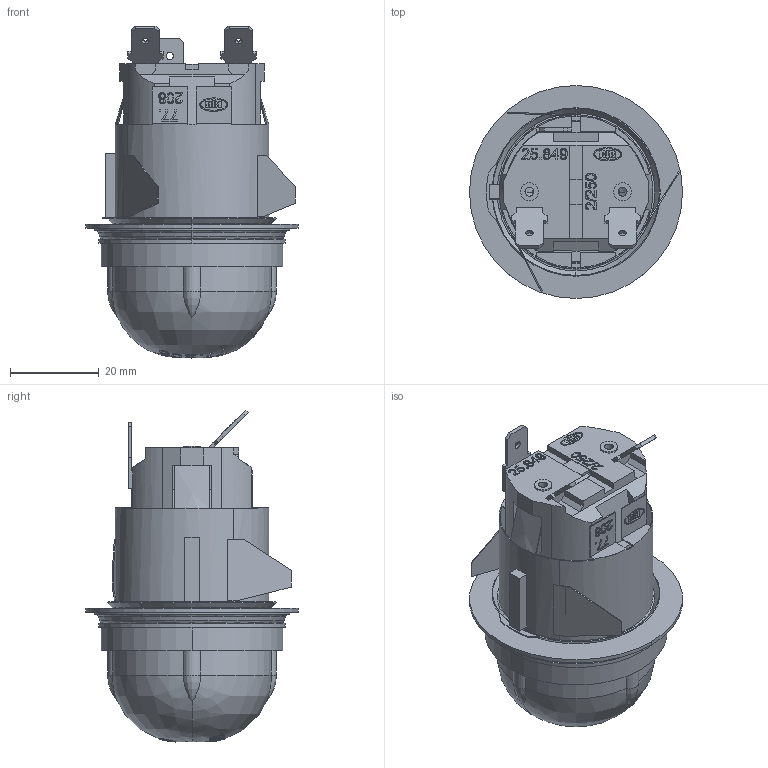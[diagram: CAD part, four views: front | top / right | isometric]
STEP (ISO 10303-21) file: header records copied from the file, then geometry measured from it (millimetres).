
FILE_DESCRIPTION(('CAx-IF Rec.Pracs.---Model Styling and Organization---1.2---2011-12-15','CAx-IF Rec.Pracs.---Geometric and Assembly Validation Properties---4.1---2014-06-16','CAx-IF Rec.Pracs.---PMI Polyline Presentation---2.0---2013-05-24'),'2;1');
FILE_NAME('011YV20Y04.stp','2021-07-26T07:46:15+02:00',(''),(''),'STEP Interface 4.4 by CT CoreTechnologie','3D_Evolution4.4 by CT CoreTechnologie','');
FILE_SCHEMA(('AP203_CONFIGURATION_CONTROLLED_3D_DESIGN_OF_MECHANICAL_PARTS_AND_ASSEMBLIES_MIM_LF'));
Length unit declared in the file: millimetre
Products named in the file (8): 011YV20Y04; 002-19K-01; 002-19J-01; 002-17E-06; 002-116-03; 011-V01-01; 00Z-Z0H-03; 016-N05-08
Assembly tree (7 placements, depth 2):
  011YV20Y04
    002-19K-01
    002-19J-01
    002-17E-06
    002-116-03
    011-V01-01
    00Z-Z0H-03
    016-N05-08
Bounding box: 48 x 48 x 74.82 mm (x, y, z)
Volume: 36523.8 mm3; surface area: 27543.9 mm2
Topology: 7 solids, 7 shells, 743 faces, 1865 edges, 1203 vertices
Faces by surface type: plane 456, cylinder 161, bspline 126
Entity records: 81515 total; most frequent: CARTESIAN_POINT 15331, PROPERTY_DEFINITION 7444, SHAPE_REPRESENTATION 3726, REPRESENTATION 3726, GENERAL_PROPERTY 3726, PROPERTY_DEFINITION_REPRESENTATION 3726, GENERAL_PROPERTY_ASSOCIATION 3726, SHAPE_DEFINITION_REPRESENTATION 3726
